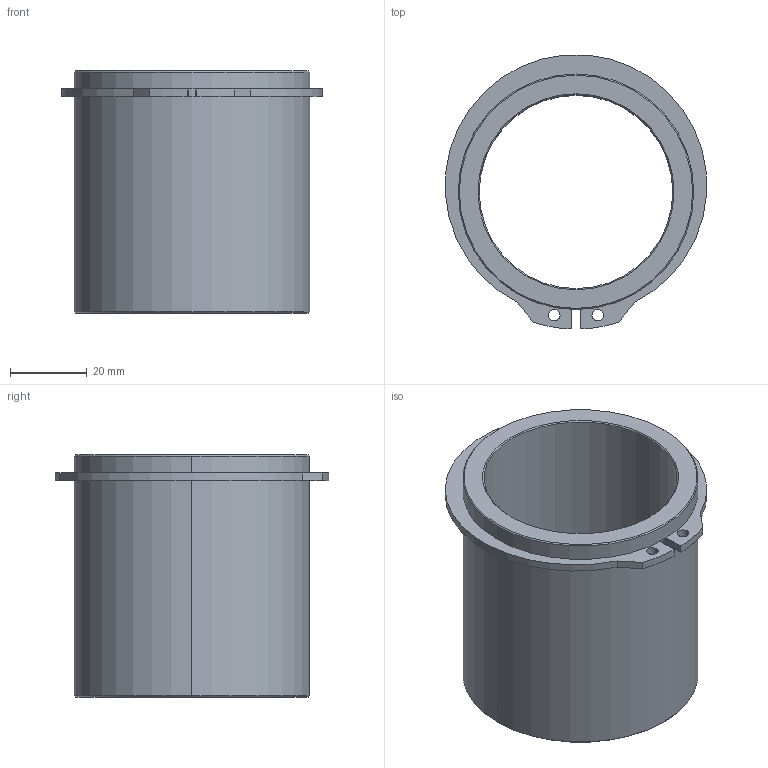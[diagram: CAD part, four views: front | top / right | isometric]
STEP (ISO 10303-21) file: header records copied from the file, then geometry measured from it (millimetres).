
FILE_DESCRIPTION((''),'2;1');
FILE_NAME('C13_050_063.stp','2008-12-17T16:09:24',(''),(''),'Mechanical Desktop 2009','Mechanical Desktop 2009',', , ');
FILE_SCHEMA(('CONFIG_CONTROL_DESIGN'));
Length unit declared in the file: millimetre
Products named in the file (2): Product; blmdl1
Assembly tree (1 placements, depth 2):
  Product
    blmdl1
Bounding box: 67.9 x 71.23 x 63 mm (x, y, z)
Volume: 61627.1 mm3; surface area: 27118.3 mm2
Topology: 2 solids, 2 shells, 34 faces, 76 edges, 48 vertices
Faces by surface type: cylinder 16, plane 10, cone 8
Entity records: 1075 total; most frequent: DIRECTION 188, CARTESIAN_POINT 160, ORIENTED_EDGE 152, AXIS2_PLACEMENT_3D 76, EDGE_CURVE 76, VERTEX_POINT 48, EDGE_LOOP 42, CIRCLE 40
